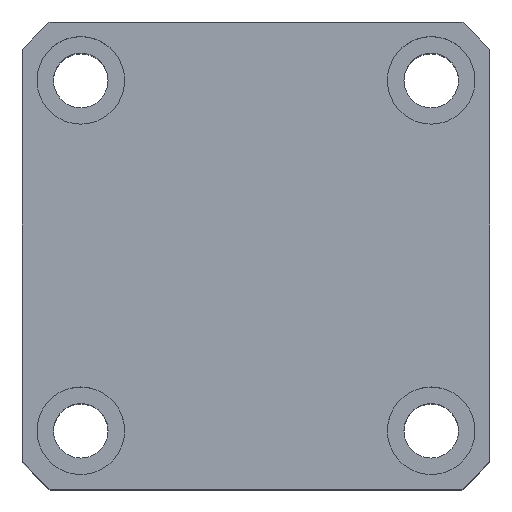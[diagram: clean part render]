
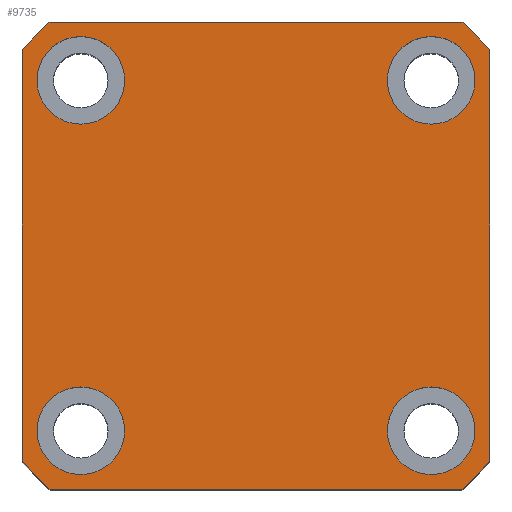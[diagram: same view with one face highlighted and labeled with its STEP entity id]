
A CAD part, top view. The second image highlights one B-rep face of the part: STEP entity #9735.
In plain terms, the highlighted planar face has unit normal (0, 0, 1) as drawn and (1, 0, 0) by its records, which use the part's own axes.
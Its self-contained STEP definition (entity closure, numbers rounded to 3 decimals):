
#129 = EDGE_CURVE ( 'NONE', #4029, #7906, #2378, .T. ) ;
#174 = VERTEX_POINT ( 'NONE', #1262 ) ;
#186 = ORIENTED_EDGE ( 'NONE', *, *, #7835, .F. ) ;
#232 = LINE ( 'NONE', #9105, #2515 ) ;
#233 = EDGE_CURVE ( 'NONE', #174, #1433, #10410, .T. ) ;
#243 = CARTESIAN_POINT ( 'NONE',  ( 50., 18., 13.5 ) ) ;
#246 = ORIENTED_EDGE ( 'NONE', *, *, #10625, .F. ) ;
#361 = VECTOR ( 'NONE', #2643, 1000. ) ;
#381 = DIRECTION ( 'NONE',  ( 0., 0., -1. ) ) ;
#393 = FACE_OUTER_BOUND ( 'NONE', #929, .T. ) ;
#413 = AXIS2_PLACEMENT_3D ( 'NONE', #1976, #7760, #2814 ) ;
#603 = DIRECTION ( 'NONE',  ( 0., 0., -1. ) ) ;
#636 = DIRECTION ( 'NONE',  ( 0., 0., -1. ) ) ;
#681 = DIRECTION ( 'NONE',  ( 1., 0., 0. ) ) ;
#717 = CARTESIAN_POINT ( 'NONE',  ( 50., 0., 0. ) ) ;
#725 = EDGE_CURVE ( 'NONE', #6504, #5746, #232, .T. ) ;
#799 = EDGE_CURVE ( 'NONE', #7906, #6504, #8339, .T. ) ;
#929 = EDGE_LOOP ( 'NONE', ( #2142, #5185, #7727, #8991, #1619, #6458, #6664, #4352 ) ) ;
#931 = DIRECTION ( 'NONE',  ( 0., 0., -1. ) ) ;
#1119 = CARTESIAN_POINT ( 'NONE',  ( 50., -18., -13.5 ) ) ;
#1133 = CARTESIAN_POINT ( 'NONE',  ( 50., 24., 21.166 ) ) ;
#1165 = EDGE_CURVE ( 'NONE', #7197, #8089, #9529, .T. ) ;
#1262 = CARTESIAN_POINT ( 'NONE',  ( 50., -24., 21.166 ) ) ;
#1335 = AXIS2_PLACEMENT_3D ( 'NONE', #7162, #2198, #7990 ) ;
#1433 = VERTEX_POINT ( 'NONE', #4483 ) ;
#1492 = AXIS2_PLACEMENT_3D ( 'NONE', #8512, #3552, #9346 ) ;
#1572 = DIRECTION ( 'NONE',  ( 1., 0., 0. ) ) ;
#1619 = ORIENTED_EDGE ( 'NONE', *, *, #1165, .T. ) ;
#1776 = CIRCLE ( 'NONE', #6872, 4.5 ) ;
#1822 = CIRCLE ( 'NONE', #2430, 32. ) ;
#1953 = CARTESIAN_POINT ( 'NONE',  ( 50., 18., -18. ) ) ;
#1976 = CARTESIAN_POINT ( 'NONE',  ( 50., 18., 18. ) ) ;
#2036 = VERTEX_POINT ( 'NONE', #243 ) ;
#2142 = ORIENTED_EDGE ( 'NONE', *, *, #129, .T. ) ;
#2198 = DIRECTION ( 'NONE',  ( 1., 0., 0. ) ) ;
#2227 = CIRCLE ( 'NONE', #6760, 4.5 ) ;
#2375 = AXIS2_PLACEMENT_3D ( 'NONE', #7159, #3468, #931 ) ;
#2378 = LINE ( 'NONE', #4895, #361 ) ;
#2430 = AXIS2_PLACEMENT_3D ( 'NONE', #4882, #10649, #5705 ) ;
#2515 = VECTOR ( 'NONE', #5363, 1000. ) ;
#2564 = CARTESIAN_POINT ( 'NONE',  ( 50., -21.166, -24. ) ) ;
#2615 = CARTESIAN_POINT ( 'NONE',  ( 50., -18., -22.5 ) ) ;
#2643 = DIRECTION ( 'NONE',  ( 0., 1., 0. ) ) ;
#2669 = DIRECTION ( 'NONE',  ( 1., 0., 0. ) ) ;
#2685 = FACE_BOUND ( 'NONE', #4981, .T. ) ;
#2787 = DIRECTION ( 'NONE',  ( 0., 0., -1. ) ) ;
#2792 = ORIENTED_EDGE ( 'NONE', *, *, #5858, .F. ) ;
#2814 = DIRECTION ( 'NONE',  ( 0., 0., -1. ) ) ;
#2851 = EDGE_CURVE ( 'NONE', #10295, #8035, #7892, .T. ) ;
#2961 = CIRCLE ( 'NONE', #7796, 32. ) ;
#3468 = DIRECTION ( 'NONE',  ( 1., 0., 0. ) ) ;
#3552 = DIRECTION ( 'NONE',  ( 1., 0., 0. ) ) ;
#3898 = CARTESIAN_POINT ( 'NONE',  ( 50., -21.166, 24. ) ) ;
#3990 = EDGE_CURVE ( 'NONE', #5746, #7197, #2961, .T. ) ;
#4029 = VERTEX_POINT ( 'NONE', #2564 ) ;
#4352 = ORIENTED_EDGE ( 'NONE', *, *, #7998, .T. ) ;
#4412 = CARTESIAN_POINT ( 'NONE',  ( 50., 18., -13.5 ) ) ;
#4483 = CARTESIAN_POINT ( 'NONE',  ( 50., -24., -21.166 ) ) ;
#4562 = CIRCLE ( 'NONE', #5966, 32. ) ;
#4590 = CARTESIAN_POINT ( 'NONE',  ( 50., -18., 22.5 ) ) ;
#4608 = CARTESIAN_POINT ( 'NONE',  ( 50., -18., -18. ) ) ;
#4783 = ORIENTED_EDGE ( 'NONE', *, *, #10462, .F. ) ;
#4815 = CARTESIAN_POINT ( 'NONE',  ( 50., 0., 0. ) ) ;
#4882 = CARTESIAN_POINT ( 'NONE',  ( 50., 0., 0. ) ) ;
#4888 = FACE_BOUND ( 'NONE', #10035, .T. ) ;
#4895 = CARTESIAN_POINT ( 'NONE',  ( 50., 24., -24. ) ) ;
#4981 = EDGE_LOOP ( 'NONE', ( #5487, #5897 ) ) ;
#5185 = ORIENTED_EDGE ( 'NONE', *, *, #799, .T. ) ;
#5363 = DIRECTION ( 'NONE',  ( 0., 0., 1. ) ) ;
#5399 = FACE_BOUND ( 'NONE', #7952, .T. ) ;
#5418 = DIRECTION ( 'NONE',  ( 1., 0., 0. ) ) ;
#5432 = DIRECTION ( 'NONE',  ( 0., 0., -1. ) ) ;
#5487 = ORIENTED_EDGE ( 'NONE', *, *, #8495, .F. ) ;
#5601 = VERTEX_POINT ( 'NONE', #7814 ) ;
#5643 = DIRECTION ( 'NONE',  ( 1., 0., 0. ) ) ;
#5647 = VERTEX_POINT ( 'NONE', #4412 ) ;
#5653 = AXIS2_PLACEMENT_3D ( 'NONE', #6541, #1572, #7378 ) ;
#5705 = DIRECTION ( 'NONE',  ( 0., 0., -1. ) ) ;
#5746 = VERTEX_POINT ( 'NONE', #1133 ) ;
#5813 = DIRECTION ( 'NONE',  ( 0., -1., 0. ) ) ;
#5858 = EDGE_CURVE ( 'NONE', #10669, #9207, #2227, .T. ) ;
#5897 = ORIENTED_EDGE ( 'NONE', *, *, #8643, .F. ) ;
#5966 = AXIS2_PLACEMENT_3D ( 'NONE', #10375, #5418, #381 ) ;
#6000 = CARTESIAN_POINT ( 'NONE',  ( 50., 24., 24. ) ) ;
#6021 = VECTOR ( 'NONE', #10667, 1000. ) ;
#6063 = CARTESIAN_POINT ( 'NONE',  ( 50., 21.166, 24. ) ) ;
#6147 = VERTEX_POINT ( 'NONE', #9956 ) ;
#6458 = ORIENTED_EDGE ( 'NONE', *, *, #8209, .T. ) ;
#6504 = VERTEX_POINT ( 'NONE', #10454 ) ;
#6506 = EDGE_CURVE ( 'NONE', #6147, #5647, #9639, .T. ) ;
#6541 = CARTESIAN_POINT ( 'NONE',  ( 50., -18., -18. ) ) ;
#6544 = EDGE_LOOP ( 'NONE', ( #7304, #186 ) ) ;
#6664 = ORIENTED_EDGE ( 'NONE', *, *, #233, .T. ) ;
#6760 = AXIS2_PLACEMENT_3D ( 'NONE', #4608, #10387, #5432 ) ;
#6872 = AXIS2_PLACEMENT_3D ( 'NONE', #7617, #2669, #8461 ) ;
#7005 = AXIS2_PLACEMENT_3D ( 'NONE', #7145, #7076, #7620 ) ;
#7076 = DIRECTION ( 'NONE',  ( 1., 0., 0. ) ) ;
#7077 = FACE_BOUND ( 'NONE', #6544, .T. ) ;
#7145 = CARTESIAN_POINT ( 'NONE',  ( 50., -18., 18. ) ) ;
#7159 = CARTESIAN_POINT ( 'NONE',  ( 50., 0., 0. ) ) ;
#7162 = CARTESIAN_POINT ( 'NONE',  ( 50., 18., -18. ) ) ;
#7197 = VERTEX_POINT ( 'NONE', #6063 ) ;
#7294 = VECTOR ( 'NONE', #5813, 1000. ) ;
#7304 = ORIENTED_EDGE ( 'NONE', *, *, #2851, .F. ) ;
#7378 = DIRECTION ( 'NONE',  ( 0., 0., -1. ) ) ;
#7617 = CARTESIAN_POINT ( 'NONE',  ( 50., 18., 18. ) ) ;
#7620 = DIRECTION ( 'NONE',  ( 0., 0., -1. ) ) ;
#7727 = ORIENTED_EDGE ( 'NONE', *, *, #725, .T. ) ;
#7743 = DIRECTION ( 'NONE',  ( 1., 0., 0. ) ) ;
#7760 = DIRECTION ( 'NONE',  ( 1., 0., 0. ) ) ;
#7766 = CARTESIAN_POINT ( 'NONE',  ( 50., 21.166, -24. ) ) ;
#7796 = AXIS2_PLACEMENT_3D ( 'NONE', #717, #681, #636 ) ;
#7814 = CARTESIAN_POINT ( 'NONE',  ( 50., 18., 22.5 ) ) ;
#7835 = EDGE_CURVE ( 'NONE', #8035, #10295, #9742, .T. ) ;
#7892 = CIRCLE ( 'NONE', #7005, 4.5 ) ;
#7906 = VERTEX_POINT ( 'NONE', #7766 ) ;
#7952 = EDGE_LOOP ( 'NONE', ( #9536, #246 ) ) ;
#7990 = DIRECTION ( 'NONE',  ( 0., 0., -1. ) ) ;
#7998 = EDGE_CURVE ( 'NONE', #1433, #4029, #4562, .T. ) ;
#8035 = VERTEX_POINT ( 'NONE', #4590 ) ;
#8089 = VERTEX_POINT ( 'NONE', #3898 ) ;
#8209 = EDGE_CURVE ( 'NONE', #8089, #174, #1822, .T. ) ;
#8339 = CIRCLE ( 'NONE', #2375, 32. ) ;
#8461 = DIRECTION ( 'NONE',  ( 0., 0., -1. ) ) ;
#8495 = EDGE_CURVE ( 'NONE', #2036, #5601, #1776, .T. ) ;
#8512 = CARTESIAN_POINT ( 'NONE',  ( 50., -18., 18. ) ) ;
#8643 = EDGE_CURVE ( 'NONE', #5601, #2036, #10071, .T. ) ;
#8828 = CARTESIAN_POINT ( 'NONE',  ( 50., -24., 24. ) ) ;
#8991 = ORIENTED_EDGE ( 'NONE', *, *, #3990, .T. ) ;
#9105 = CARTESIAN_POINT ( 'NONE',  ( 50., 24., 24. ) ) ;
#9207 = VERTEX_POINT ( 'NONE', #2615 ) ;
#9285 = CIRCLE ( 'NONE', #10634, 4.5 ) ;
#9346 = DIRECTION ( 'NONE',  ( 0., 0., -1. ) ) ;
#9529 = LINE ( 'NONE', #6000, #7294 ) ;
#9536 = ORIENTED_EDGE ( 'NONE', *, *, #6506, .F. ) ;
#9556 = CIRCLE ( 'NONE', #5653, 4.5 ) ;
#9639 = CIRCLE ( 'NONE', #1335, 4.5 ) ;
#9735 = ADVANCED_FACE ( 'NONE', ( #4888, #7077, #5399, #2685, #393 ), #9784, .T. ) ;
#9742 = CIRCLE ( 'NONE', #1492, 4.5 ) ;
#9784 = PLANE ( 'NONE',  #10070 ) ;
#9956 = CARTESIAN_POINT ( 'NONE',  ( 50., 18., -22.5 ) ) ;
#10035 = EDGE_LOOP ( 'NONE', ( #4783, #2792 ) ) ;
#10070 = AXIS2_PLACEMENT_3D ( 'NONE', #4815, #5643, #603 ) ;
#10071 = CIRCLE ( 'NONE', #413, 4.5 ) ;
#10295 = VERTEX_POINT ( 'NONE', #10543 ) ;
#10375 = CARTESIAN_POINT ( 'NONE',  ( 50., 0., 0. ) ) ;
#10387 = DIRECTION ( 'NONE',  ( 1., 0., 0. ) ) ;
#10410 = LINE ( 'NONE', #8828, #6021 ) ;
#10454 = CARTESIAN_POINT ( 'NONE',  ( 50., 24., -21.166 ) ) ;
#10462 = EDGE_CURVE ( 'NONE', #9207, #10669, #9556, .T. ) ;
#10543 = CARTESIAN_POINT ( 'NONE',  ( 50., -18., 13.5 ) ) ;
#10625 = EDGE_CURVE ( 'NONE', #5647, #6147, #9285, .T. ) ;
#10634 = AXIS2_PLACEMENT_3D ( 'NONE', #1953, #7743, #2787 ) ;
#10649 = DIRECTION ( 'NONE',  ( 1., 0., 0. ) ) ;
#10667 = DIRECTION ( 'NONE',  ( 0., 0., -1. ) ) ;
#10669 = VERTEX_POINT ( 'NONE', #1119 ) ;
